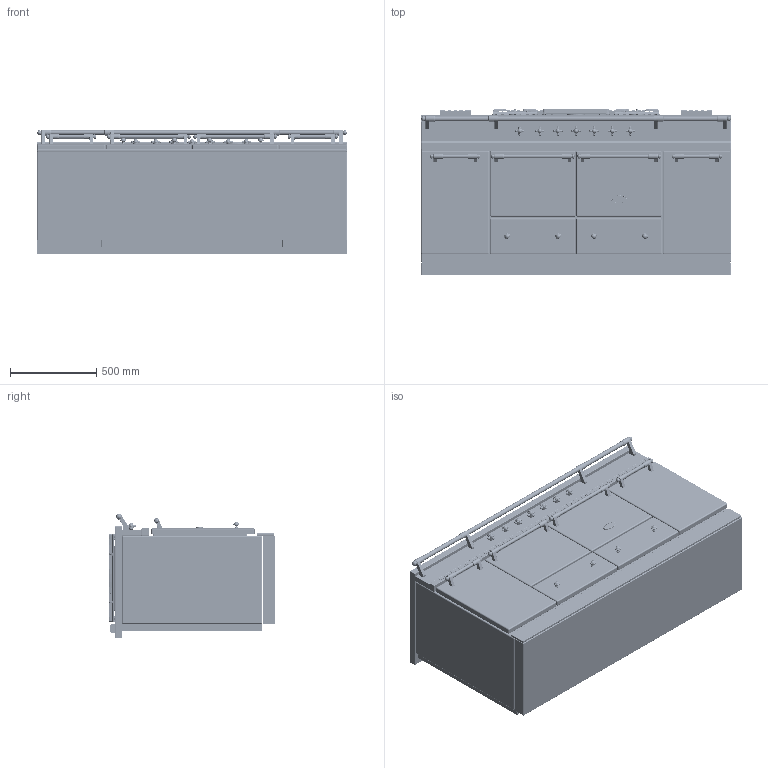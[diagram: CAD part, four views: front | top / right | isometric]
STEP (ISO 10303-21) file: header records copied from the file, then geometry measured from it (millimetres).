
FILE_DESCRIPTION((''),'2;1');
FILE_NAME('LCF1852_ASM','2021-12-01T16:09:01',('r.avril'),(''),'CREO PARAMETRIC BY PTC INC, 2017260','CREO PARAMETRIC BY PTC INC, 2017260','');
FILE_SCHEMA(('AP203_CONFIGURATION_CONTROLLED_3D_DESIGN_OF_MECHANICAL_PARTS_AND_ASSEMBLIES_MIM_LF { 1 0 10303 403 2 1 2 }'));
Products named in the file (30): BASE_EXPORT_CLUNY_1800; 65650003; 65650004; 6531940; 6531941; 6531943; 6538399; 1931942; 65080022_AF0; 6531942_ASM; 65049009; 65650001; 65650006; 65650007; BASE_EXPORT_CLUNY_1800_ASM; TABLE_1805_CLASSIQUE; 3KW; 5KW; 1_5KW; 4KW; 65062008; 65062012; 65149005; 90000549_ASM; 6537023; 90000565_ASM; CHEMINEE_2020_LG182_EXPORT_STEP; CHEMINEE_2020_LG371_EXPORT_STEP; TABLE_1805_TRADITION_ASM; LCF1852_ASM
Assembly tree (55 placements, depth 4):
  LCF1852_ASM
    BASE_EXPORT_CLUNY_1800_ASM
      BASE_EXPORT_CLUNY_1800
      65650003
      65650004
      6531940  x4
      6531941  x4
      6531943  x4
      6531942_ASM  x7
        6538399
        1931942
        65080022_AF0
      65049009
      65650001
      65650006
      65650007
    TABLE_1805_TRADITION_ASM
      TABLE_1805_CLASSIQUE
      3KW  x2
      5KW
      1_5KW
      4KW
      90000549_ASM
        65062008
        65062012
        65149005  x4
      90000565_ASM  x2
        6537023
        65149005
      CHEMINEE_2020_LG182_EXPORT_STEP  x2
      CHEMINEE_2020_LG371_EXPORT_STEP  x2
Bounding box: 1805 x 967 x 724 mm (x, y, z)
Volume: 658790906.1 mm3; surface area: 16255558.4 mm2
Topology: 75 solids, 91 shells, 10077 faces, 26230 edges, 16319 vertices
Faces by surface type: plane 4716, cylinder 2950, bspline 1038, torus 439, sphere 340, cone 336, extrusion 238, revolution 20
Entity records: 245991 total; most frequent: CARTESIAN_POINT 64272, ORIENTED_EDGE 30524, DIRECTION 28537, EDGE_CURVE 15276, VECTOR 9902, LINE 9852, PRESENTATION_STYLE_ASSIGNMENT 9676, STYLED_ITEM 9653
